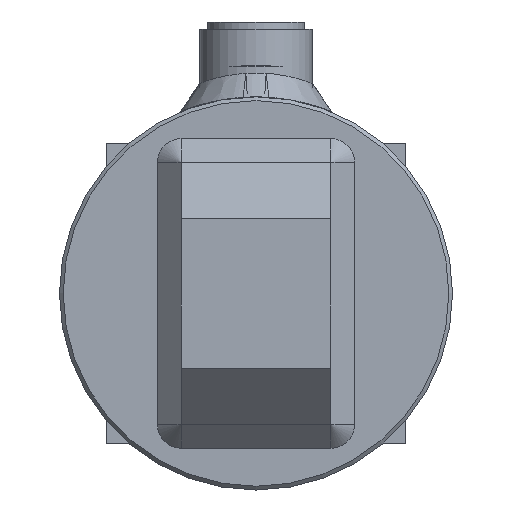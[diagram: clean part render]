
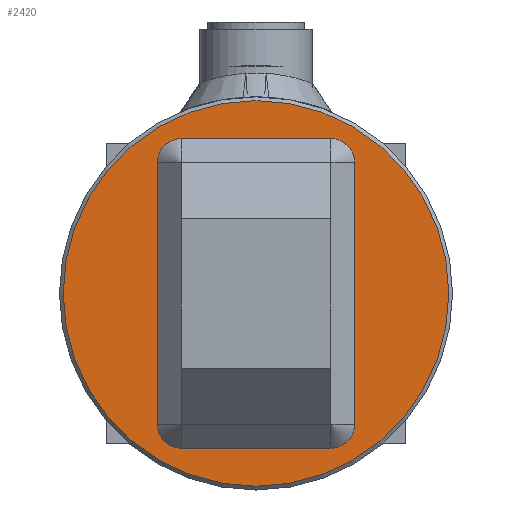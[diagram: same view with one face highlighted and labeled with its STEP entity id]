
A CAD part, left-side view. The second image highlights one B-rep face of the part: STEP entity #2420.
In plain terms, the highlighted planar face has unit normal (-1, 0, 0).
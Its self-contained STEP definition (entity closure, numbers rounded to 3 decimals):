
#2420 = ADVANCED_FACE( '', ( #6352 ), #6353, .T. );
#6352 = FACE_OUTER_BOUND( '', #7925, .T. );
#6353 = PLANE( '', #7926 );
#7925 = EDGE_LOOP( '', ( #8579 ) );
#7926 = AXIS2_PLACEMENT_3D( '', #8580, #8581, #8582 );
#8579 = ORIENTED_EDGE( '', *, *, #9552, .T. );
#8580 = CARTESIAN_POINT( '', ( -15., 0., 0. ) );
#8581 = DIRECTION( '', ( -1., 0., 0. ) );
#8582 = DIRECTION( '', ( 0., -1., 0. ) );
#9552 = EDGE_CURVE( '', #11690, #11690, #11691, .T. );
#11690 = VERTEX_POINT( '', #12368 );
#11691 = CIRCLE( '', #12369, 51.5 );
#12368 = CARTESIAN_POINT( '', ( -15., -51.5, 0. ) );
#12369 = AXIS2_PLACEMENT_3D( '', #12474, #12475, #12476 );
#12474 = CARTESIAN_POINT( '', ( -15., 0., 0. ) );
#12475 = DIRECTION( '', ( -1., 0., 0. ) );
#12476 = DIRECTION( '', ( 0., -1., 0. ) );
